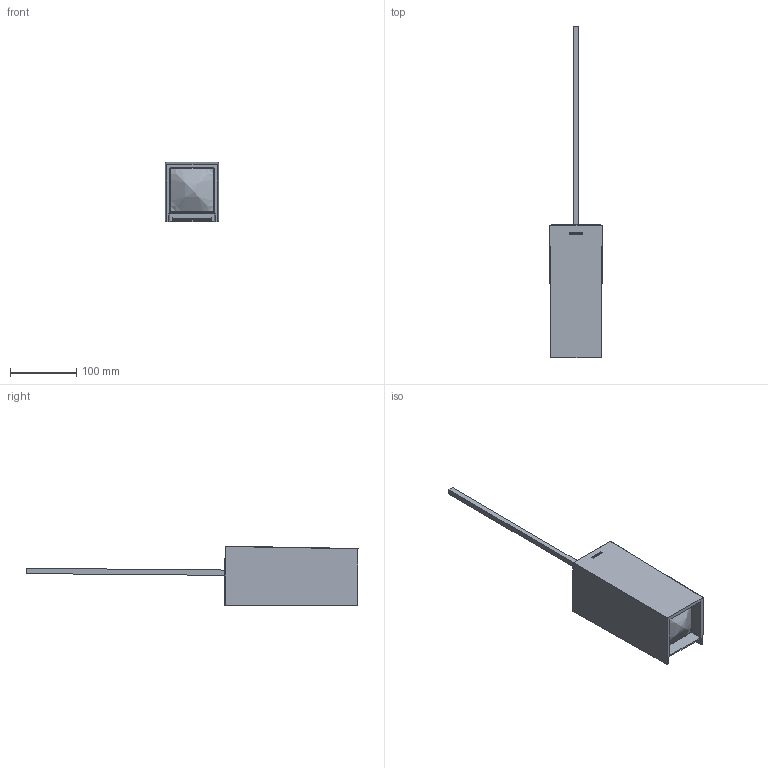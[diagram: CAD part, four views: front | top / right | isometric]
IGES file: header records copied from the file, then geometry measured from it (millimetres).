
Start section: SolidWorks IGES file using analytic representation for surfaces
Global section: file name: G:\Projects\New project\For Marketing\IGS\DXF & IGS\2290100.IGS; native system: SolidWorks 2010; preprocessor: SolidWorks 2010; author: weijuan; date: 151007.161659; units: inch
Bounding box: 79.99 x 500.85 x 89.99 mm (x, y, z)
Surface area: 105930.6 mm2 (no closed solid volume)
Topology: 0 solids, 0 shells, 84 faces, 1040 edges, 1035 vertices
Faces by surface type: bspline 60, revolution 24
